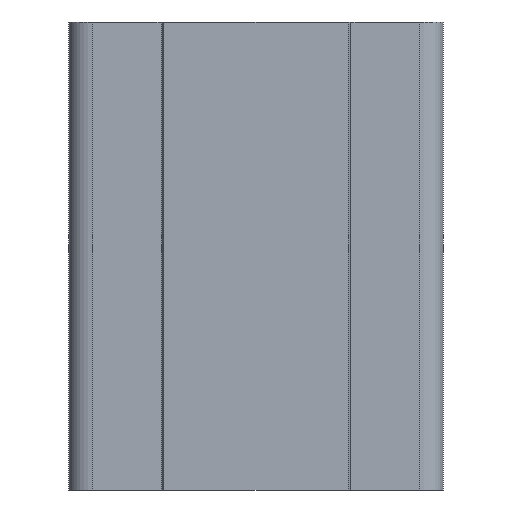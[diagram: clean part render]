
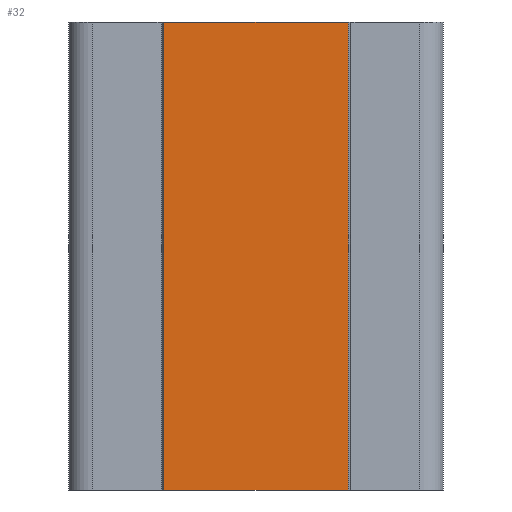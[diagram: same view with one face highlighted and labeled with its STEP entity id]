
A CAD part, front view. The second image highlights one B-rep face of the part: STEP entity #32.
In plain terms, the highlighted planar face has unit normal (0, -1, 0).
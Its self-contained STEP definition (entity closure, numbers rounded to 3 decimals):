
#9 = VERTEX_POINT ( 'NONE', #282 ) ;
#19 = CARTESIAN_POINT ( 'NONE',  ( -19.711, -2.5, -50. ) ) ;
#23 = CARTESIAN_POINT ( 'NONE',  ( 19.711, -2.5, -50. ) ) ;
#32 = ADVANCED_FACE ( 'NONE', ( #41 ), #355, .T. ) ;
#41 = FACE_OUTER_BOUND ( 'NONE', #336, .T. ) ;
#46 = VERTEX_POINT ( 'NONE', #217 ) ;
#59 = DIRECTION ( 'NONE',  ( 1., 0., 0. ) ) ;
#68 = VECTOR ( 'NONE', #241, 1000. ) ;
#90 = CARTESIAN_POINT ( 'NONE',  ( -19.711, -2.5, -50. ) ) ;
#93 = VECTOR ( 'NONE', #59, 1000. ) ;
#96 = EDGE_CURVE ( 'NONE', #9, #46, #127, .T. ) ;
#99 = CARTESIAN_POINT ( 'NONE',  ( 19.711, -2.5, -50. ) ) ;
#111 = EDGE_CURVE ( 'NONE', #245, #46, #157, .T. ) ;
#127 = LINE ( 'NONE', #129, #169 ) ;
#129 = CARTESIAN_POINT ( 'NONE',  ( -19.711, -2.5, 50. ) ) ;
#153 = DIRECTION ( 'NONE',  ( 1., 0., 0. ) ) ;
#157 = LINE ( 'NONE', #23, #167 ) ;
#159 = EDGE_CURVE ( 'NONE', #171, #245, #256, .T. ) ;
#167 = VECTOR ( 'NONE', #433, 1000. ) ;
#169 = VECTOR ( 'NONE', #364, 1000. ) ;
#171 = VERTEX_POINT ( 'NONE', #90 ) ;
#193 = AXIS2_PLACEMENT_3D ( 'NONE', #19, #386, #153 ) ;
#217 = CARTESIAN_POINT ( 'NONE',  ( 19.711, -2.5, 50. ) ) ;
#241 = DIRECTION ( 'NONE',  ( 0., 0., 1. ) ) ;
#245 = VERTEX_POINT ( 'NONE', #99 ) ;
#256 = LINE ( 'NONE', #362, #93 ) ;
#263 = LINE ( 'NONE', #399, #68 ) ;
#270 = ORIENTED_EDGE ( 'NONE', *, *, #96, .F. ) ;
#282 = CARTESIAN_POINT ( 'NONE',  ( -19.711, -2.5, 50. ) ) ;
#299 = ORIENTED_EDGE ( 'NONE', *, *, #111, .T. ) ;
#307 = EDGE_CURVE ( 'NONE', #171, #9, #263, .T. ) ;
#336 = EDGE_LOOP ( 'NONE', ( #270, #418, #375, #299 ) ) ;
#355 = PLANE ( 'NONE',  #193 ) ;
#362 = CARTESIAN_POINT ( 'NONE',  ( -19.711, -2.5, -50. ) ) ;
#364 = DIRECTION ( 'NONE',  ( 1., 0., 0. ) ) ;
#375 = ORIENTED_EDGE ( 'NONE', *, *, #159, .T. ) ;
#386 = DIRECTION ( 'NONE',  ( 0., -1., 0. ) ) ;
#399 = CARTESIAN_POINT ( 'NONE',  ( -19.711, -2.5, -50. ) ) ;
#418 = ORIENTED_EDGE ( 'NONE', *, *, #307, .F. ) ;
#433 = DIRECTION ( 'NONE',  ( 0., 0., 1. ) ) ;
